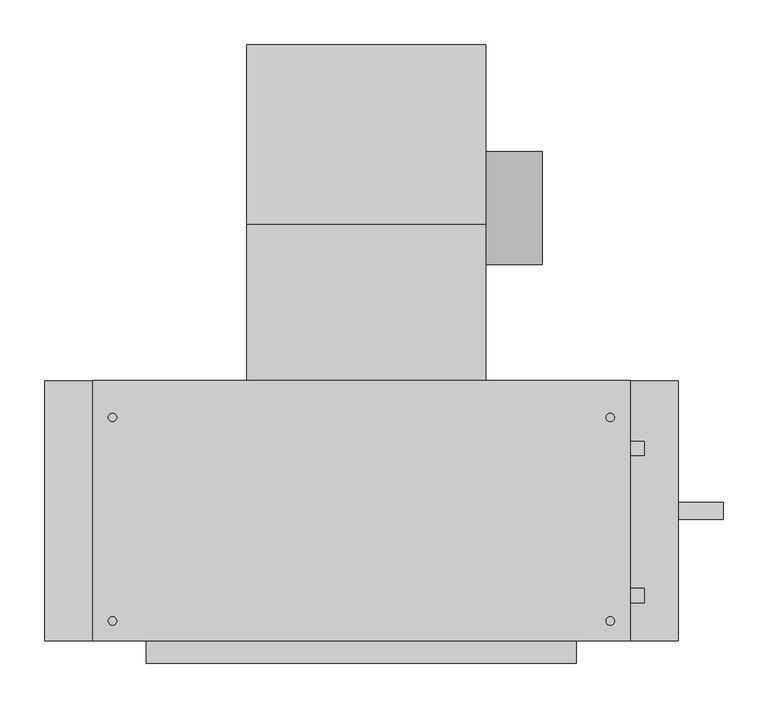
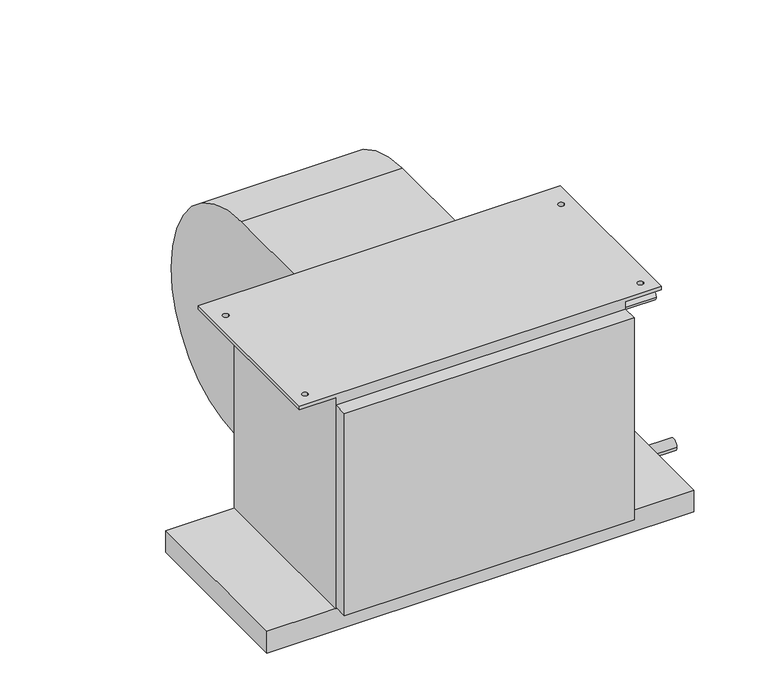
"""IFC4 building model written with IfcOpenShell, lengths in millimetres: proxy geometry, Concealed_High_Capacity_Horizontal_Fan_Coil_Unit_-_42DAA_-_CARRIER_-_2-Pipe_RH_2022 : Size 08 - 277v/60Hz/1Ph - 6 Row 6.0kW."""

from ifc_helpers import new_model, si_unit, point, frame, frame_2d, origin, place, context, project, spatial, polyline, circle_curve, trimmed, segment, composite_curve, outline, extrude, source, transform, mapped, element, save
from ifc_brep_helpers import plane_surface, cylinder_surface, revolved_surface, advanced_brep


def mechanical_equipment_86e26982(model_context):
    return source(origin(), model_context, "Body", "SolidModel", [
        extrude(outline(composite_curve([segment(trimmed(circle_curve(frame_2d((102.0007598, -206.8897468)), 63.5), [point((165.5007598, -206.8897468))], [point((38.5007598, -206.8897468))], False, "CARTESIAN"), True, "CONTINUOUS"), segment(trimmed(circle_curve(frame_2d((102.0007598, -206.8897468)), 63.5), [point((38.5007598, -206.8897468))], [point((165.5007598, -206.8897468))], False, "CARTESIAN"), True, "CONTINUOUS")], self_intersect=False)), frame((292.1, 0.0, 0.0), z_axis=(1.0, 0.0, 0.0), x_axis=(0.0, 1.0, 0.0)), (0.0, 0.0, 1.0), 63.5),
        advanced_brep(
        [(23.876, 285.5155957, -222.029602), (23.876, 104.6226, -403.64664), (23.876, -50.9016, -277.10638), (23.876, -92.075, -277.10638), (23.876, -92.075, -19.05), (23.876, 83.0080093, -19.05), (292.1, 285.5155957, -222.029602), (292.1, 83.0080093, -19.05), (292.1, -92.075, -19.05), (292.1, -92.075, -277.10638), (292.1, -50.9016, -277.10638), (292.1, 104.622599, -403.6457839)],
        [
            (0, 1, circle_curve(frame((23.876, 104.44226, -222.57258), z_axis=(-1.0, 0.0, 0.0), x_axis=(0.0, -1.0, 0.0)), 181.0741498)),
            (1, 2, circle_curve(frame((23.876, 104.44226, -245.02364), z_axis=(-1.0, 0.0, 0.0), x_axis=(0.0, -1.0, 0.0)), 158.6222464)),
            (2, 3),
            (3, 4),
            (4, 5),
            (5, 0, circle_curve(frame((23.876, 81.9912, -222.57258), z_axis=(-1.0, 0.0, 0.0), x_axis=(0.0, -1.0, 0.0)), 203.52512)),
            (6, 7, circle_curve(frame((292.1, 81.9912, -222.57258), z_axis=(1.0, 0.0, 0.0), x_axis=(0.0, -1.0, 0.0)), 203.52512)),
            (7, 8),
            (8, 9),
            (9, 10),
            (10, 11, circle_curve(frame((292.1, 104.44226, -245.02364), z_axis=(1.0, 0.0, 0.0), x_axis=(0.0, -1.0, 0.0)), 158.6222464)),
            (11, 6, circle_curve(frame((292.1, 104.44226, -222.57258), z_axis=(1.0, 0.0, 0.0), x_axis=(0.0, -1.0, 0.0)), 181.0741498)),
            (0, 6),
            (11, 1),
            (10, 2),
            (9, 3),
            (8, 4),
            (7, 5),
        ],
        [
            plane_surface(frame((23.876, -76.6318898, -222.57258), z_axis=(-1.0, 0.0, 0.0), x_axis=(0.0, 0.0, 1.0))),
            plane_surface(frame((292.1, -76.6318898, -222.57258), z_axis=(1.0, 0.0, 0.0), x_axis=(0.0, 0.0, -1.0))),
            cylinder_surface(frame((292.1, 104.44226, -222.57258), z_axis=(-1.0, 0.0, 0.0), x_axis=(0.0, -1.0, 0.0)), 181.0741498),
            cylinder_surface(frame((292.1, 104.44226, -245.02364), z_axis=(-1.0, 0.0, 0.0), x_axis=(0.0, -1.0, 0.0)), 158.6222464),
            plane_surface(frame((23.876, -50.9016, -277.10638), z_axis=(0.0, 0.0, -1.0), x_axis=(1.0, 0.0, 0.0))),
            plane_surface(frame((23.876, -92.075, -277.10638), z_axis=(0.0, -1.0, 0.0), x_axis=(1.0, 0.0, 0.0))),
            plane_surface(frame((23.876, -92.075, -19.05), z_axis=(0.0, 0.0, 1.0), x_axis=(1.0, 0.0, 0.0))),
            cylinder_surface(frame((292.1, 81.9912, -222.57258), z_axis=(-1.0, 0.0, 0.0), x_axis=(0.0, -1.0, 0.0)), 203.52512),
        ],
        [
            (0, [[1, 2, 3, 4, 5, 6]]),
            (1, [[7, 8, 9, 10, 11, 12]]),
            (2, [[-1, 13, -12, 14]]),
            (3, [[-2, -14, -11, 15]]),
            (4, [[-3, -15, -10, 16]]),
            (5, [[-4, -16, -9, 17]]),
            (6, [[-5, -17, -8, 18]]),
            (7, [[-6, -18, -7, -13]]),
        ],
    ),
        advanced_brep(
        [(454.025, -92.075, -6.35), (454.025, -384.175, -6.35), (393.7, -384.175, -6.35), (393.7, -92.075, -6.35), (427.0375, -133.35, -6.35), (436.5625, -133.35, -6.35), (427.0375, -361.95, -6.35), (436.5625, -361.95, -6.35), (-149.225, -92.075, -6.35), (-88.9, -92.075, -6.35), (-88.9, -384.175, -6.35), (-149.225, -384.175, -6.35), (-131.7625, -133.35, -6.35), (-122.2375, -133.35, -6.35), (-131.7625, -361.95, -6.35), (-122.2375, -361.95, -6.35), (454.025, -384.175, 0.0), (454.025, -92.075, 0.0), (-149.225, -92.075, 0.0), (-149.225, -384.175, 0.0), (-122.2375, -133.35, 0.0), (-131.7625, -133.35, 0.0), (-122.2375, -361.95, 0.0), (-131.7625, -361.95, 0.0), (436.5625, -133.35, 0.0), (427.0375, -133.35, 0.0), (436.5625, -361.95, 0.0), (427.0375, -361.95, 0.0), (393.7, -92.075, -377.825), (-88.9, -92.075, -377.825), (-88.9, -384.175, -377.825), (393.7, -384.175, -377.825)],
        [
            (0, 1),
            (1, 2),
            (2, 3),
            (3, 0),
            (4, 5, circle_curve(frame((431.8, -133.35, -6.35), z_axis=(0.0, 0.0, 1.0), x_axis=(1.0, 0.0, 0.0)), 4.7625)),
            (5, 4, circle_curve(frame((431.8, -133.35, -6.35), z_axis=(0.0, 0.0, 1.0), x_axis=(1.0, 0.0, 0.0)), 4.7625)),
            (6, 7, circle_curve(frame((431.8, -361.95, -6.35), z_axis=(0.0, 0.0, 1.0), x_axis=(1.0, 0.0, 0.0)), 4.7625)),
            (7, 6, circle_curve(frame((431.8, -361.95, -6.35), z_axis=(0.0, 0.0, 1.0), x_axis=(1.0, 0.0, 0.0)), 4.7625)),
            (8, 9),
            (9, 10),
            (10, 11),
            (11, 8),
            (12, 13, circle_curve(frame((-127.0, -133.35, -6.35), z_axis=(0.0, 0.0, 1.0), x_axis=(1.0, 0.0, 0.0)), 4.7625)),
            (13, 12, circle_curve(frame((-127.0, -133.35, -6.35), z_axis=(0.0, 0.0, 1.0), x_axis=(1.0, 0.0, 0.0)), 4.7625)),
            (14, 15, circle_curve(frame((-127.0, -361.95, -6.35), z_axis=(0.0, 0.0, 1.0), x_axis=(1.0, 0.0, 0.0)), 4.7625)),
            (15, 14, circle_curve(frame((-127.0, -361.95, -6.35), z_axis=(0.0, 0.0, 1.0), x_axis=(1.0, 0.0, 0.0)), 4.7625)),
            (16, 17),
            (17, 18),
            (18, 19),
            (19, 16),
            (20, 21, circle_curve(frame((-127.0, -133.35, 0.0), z_axis=(0.0, 0.0, -1.0), x_axis=(1.0, 0.0, 0.0)), 4.7625)),
            (21, 20, circle_curve(frame((-127.0, -133.35, 0.0), z_axis=(0.0, 0.0, -1.0), x_axis=(1.0, 0.0, 0.0)), 4.7625)),
            (22, 23, circle_curve(frame((-127.0, -361.95, 0.0), z_axis=(0.0, 0.0, -1.0), x_axis=(1.0, 0.0, 0.0)), 4.7625)),
            (23, 22, circle_curve(frame((-127.0, -361.95, 0.0), z_axis=(0.0, 0.0, -1.0), x_axis=(1.0, 0.0, 0.0)), 4.7625)),
            (24, 25, circle_curve(frame((431.8, -133.35, 0.0), z_axis=(0.0, 0.0, -1.0), x_axis=(1.0, 0.0, 0.0)), 4.7625)),
            (25, 24, circle_curve(frame((431.8, -133.35, 0.0), z_axis=(0.0, 0.0, -1.0), x_axis=(1.0, 0.0, 0.0)), 4.7625)),
            (26, 27, circle_curve(frame((431.8, -361.95, 0.0), z_axis=(0.0, 0.0, -1.0), x_axis=(1.0, 0.0, 0.0)), 4.7625)),
            (27, 26, circle_curve(frame((431.8, -361.95, 0.0), z_axis=(0.0, 0.0, -1.0), x_axis=(1.0, 0.0, 0.0)), 4.7625)),
            (3, 28),
            (28, 29),
            (29, 9),
            (8, 18),
            (17, 0),
            (1, 16),
            (19, 11),
            (10, 30),
            (30, 31),
            (31, 2),
            (28, 31),
            (30, 29),
            (20, 13),
            (12, 21),
            (22, 15),
            (14, 23),
            (24, 5),
            (4, 25),
            (26, 7),
            (6, 27),
        ],
        [
            plane_surface(frame((393.7, -92.075, -6.35), z_axis=(0.0, 0.0, -1.0), x_axis=(1.0, 0.0, 0.0))),
            plane_surface(frame((393.7, -92.075, 0.0), z_axis=(0.0, 0.0, 1.0), x_axis=(-1.0, 0.0, 0.0))),
            plane_surface(frame((454.025, -92.075, 0.0), z_axis=(0.0, 1.0, 0.0), x_axis=(0.0, 0.0, -1.0))),
            plane_surface(frame((393.7, -384.175, 0.0), z_axis=(0.0, -1.0, 0.0), x_axis=(0.0, 0.0, -1.0))),
            plane_surface(frame((454.025, -384.175, 0.0), z_axis=(1.0, 0.0, 0.0), x_axis=(0.0, 0.0, -1.0))),
            plane_surface(frame((-149.225, -92.075, 0.0), z_axis=(-1.0, 0.0, 0.0), x_axis=(0.0, 0.0, -1.0))),
            plane_surface(frame((-88.9, -92.075, -377.825), z_axis=(0.0, 0.0, -1.0), x_axis=(1.0, 0.0, 0.0))),
            plane_surface(frame((-88.9, -92.075, 0.0), z_axis=(-1.0, 0.0, 0.0), x_axis=(0.0, 0.0, -1.0))),
            plane_surface(frame((393.7, -384.175, 0.0), z_axis=(1.0, 0.0, 0.0), x_axis=(0.0, 0.0, -1.0))),
            revolved_surface(polyline([(-122.2375, -133.35, 0.0), (-122.2375, -133.35, -6.35)]), (-127.0, -133.35, -6.35), (0.0, 0.0, 1.0)),
            revolved_surface(polyline([(-122.2375, -361.95, 0.0), (-122.2375, -361.95, -6.35)]), (-127.0, -361.95, 0.0), (0.0, 0.0, 1.0)),
            revolved_surface(polyline([(436.5625, -133.35, 0.0), (436.5625, -133.35, -6.35)]), (431.8, -133.35, 0.0), (0.0, 0.0, 1.0)),
            revolved_surface(polyline([(436.5625, -361.95, 0.0), (436.5625, -361.95, -6.35)]), (431.8, -361.95, 0.0), (0.0, 0.0, 1.0)),
        ],
        [
            (0, [[1, 2, 3, 4], [5, 6], [7, 8]]),
            (0, [[9, 10, 11, 12], [13, 14], [15, 16]]),
            (1, [[17, 18, 19, 20], [21, 22], [23, 24], [25, 26], [27, 28]]),
            (2, [[-4, 29, 30, 31, -9, 32, -18, 33]]),
            (3, [[-2, 34, -20, 35, -11, 36, 37, 38]]),
            (4, [[-1, -33, -17, -34]]),
            (5, [[-12, -35, -19, -32]]),
            (6, [[39, -37, 40, -30]]),
            (7, [[-40, -36, -10, -31]]),
            (8, [[-39, -29, -3, -38]]),
            (9, [[41, -13, 42, -21]]),
            (9, [[-41, -22, -42, -14]]),
            (10, [[43, -15, 44, -23]]),
            (10, [[-43, -24, -44, -16]]),
            (11, [[45, -5, 46, -25]]),
            (11, [[-45, -26, -46, -6]]),
            (12, [[47, -7, 48, -27]]),
            (12, [[-47, -28, -48, -8]]),
        ],
    ),
        extrude(outline(composite_curve([segment(trimmed(circle_curve(frame_2d((-238.125, -403.225)), 9.525), [point((-228.6, -403.225))], [point((-247.65, -403.225))], False, "CARTESIAN"), True, "CONTINUOUS"), segment(trimmed(circle_curve(frame_2d((-238.125, -403.225)), 9.525), [point((-247.65, -403.225))], [point((-228.6, -403.225))], False, "CARTESIAN"), True, "CONTINUOUS")], self_intersect=False)), frame((508.0, 0.0, 0.0), z_axis=(1.0, 0.0, 0.0), x_axis=(0.0, 1.0, 0.0)), (0.0, 0.0, 1.0), 50.8),
        extrude(outline(composite_curve([segment(trimmed(circle_curve(frame_2d((-333.375, -50.8)), 7.9375), [point((-325.4375, -50.8))], [point((-341.3125, -50.8))], False, "CARTESIAN"), True, "CONTINUOUS"), segment(trimmed(circle_curve(frame_2d((-333.375, -50.8)), 7.9375), [point((-341.3125, -50.8))], [point((-325.4375, -50.8))], False, "CARTESIAN"), True, "CONTINUOUS")], self_intersect=False)), frame((393.7, 0.0, 0.0), z_axis=(1.0, 0.0, 0.0), x_axis=(0.0, 1.0, 0.0)), (0.0, 0.0, 1.0), 76.2),
        extrude(outline(composite_curve([segment(trimmed(circle_curve(frame_2d((-168.275, -327.025)), 7.9375), [point((-160.3375, -327.025))], [point((-176.2125, -327.025))], False, "CARTESIAN"), True, "CONTINUOUS"), segment(trimmed(circle_curve(frame_2d((-168.275, -327.025)), 7.9375), [point((-176.2125, -327.025))], [point((-160.3375, -327.025))], False, "CARTESIAN"), True, "CONTINUOUS")], self_intersect=False)), frame((393.7, 0.0, 0.0), z_axis=(1.0, 0.0, 0.0), x_axis=(0.0, 1.0, 0.0)), (0.0, 0.0, 1.0), 76.2),
        extrude(outline(polyline([(393.7, -409.575), (-88.9, -409.575), (-88.9, -384.175), (393.7, -384.175), (393.7, -409.575)])), frame((0.0, 0.0, -374.65), z_axis=(0.0, 0.0, 1.0), x_axis=(1.0, 0.0, 0.0)), (0.0, 0.0, 1.0), 355.6),
        extrude(outline(polyline([(508.0, -92.075), (508.0, -384.175), (-203.2, -384.175), (-203.2, -92.075), (508.0, -92.075)])), frame((0.0, 0.0, -415.925), z_axis=(0.0, 0.0, 1.0), x_axis=(1.0, 0.0, 0.0)), (0.0, 0.0, 1.0), 38.1),
    ])


if __name__ == "__main__":
    model = new_model("IFC4")
    model_context = context("Model", 3, world=origin())
    ifc_project = project(units=[si_unit("LENGTHUNIT", "METRE", prefix="MILLI")], contexts=[model_context])
    site = spatial("IfcSite", under=ifc_project)
    building = spatial("IfcBuilding", under=site)
    placement = place(None, origin())
    mechanical_equipment_shape = mechanical_equipment_86e26982(model_context)
    element("IfcBuildingElementProxy", 1, Name="Concealed_High_Capacity_Horizontal_Fan_Coil_Unit_-_42DAA_-_CARRIER_-_2-Pipe_RH_2022 : Size 08 - 277v/60Hz/1Ph - 6 Row 6.0kW", ObjectType="Concealed_High_Capacity_Horizontal_Fan_Coil_Unit_-_42DAA_-_CARRIER_-_2-Pipe_RH_2022 : Size 08 - 277v/60Hz/1Ph - 6 Row 6.0kW", at=placement, inside=building, context=model_context, shape_type="MappedRepresentation", body=[
        mapped(mechanical_equipment_shape, transform((0.0, 0.0, 0.0), x_axis=(1.0, 0.0, 0.0), y_axis=(0.0, 1.0, 0.0), z_axis=(0.0, 0.0, 1.0))),
    ])
    save(model, "model.ifc")
